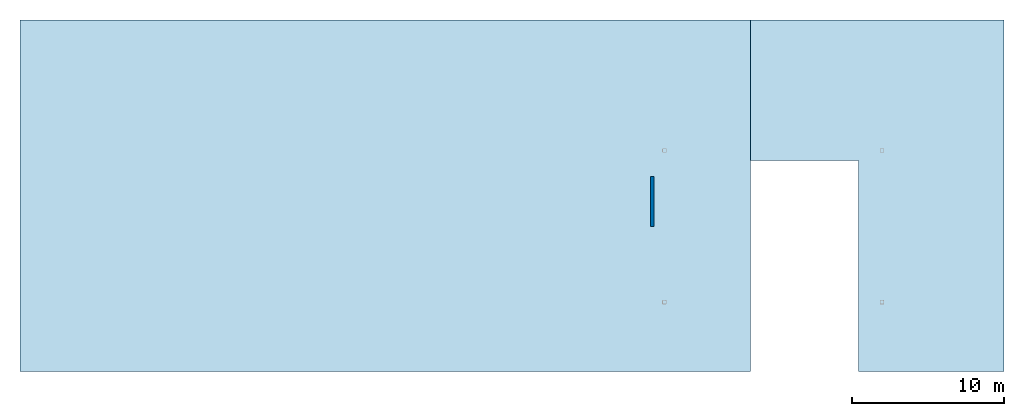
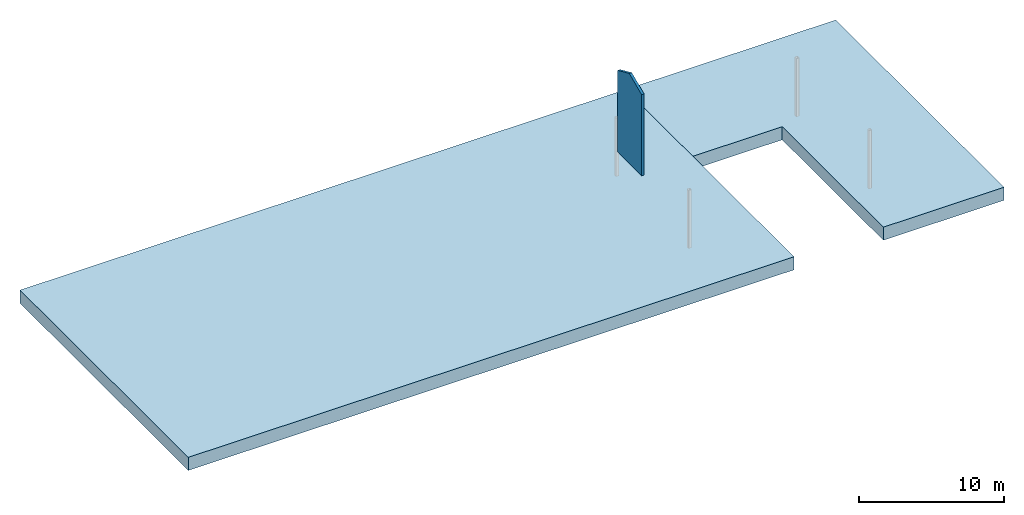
# One storey, part 2 of 2: 2 slabs, 1 wall.
"""IFC2X3 building model written with IfcOpenShell, lengths in millimetres."""

from ifc_helpers import new_model, entity, si_unit, converted_unit, derived_unit, direction, frame, frame_2d, origin, place, context, subcontext, project, spatial, polyline, rectangle, outline, extrude, clip, bounded_halfspace, material, layer, layer_set, layer_usage, type_object, element, save


model = new_model("IFC2X3")

# Units and contexts
model_context = context("Model", 3, precision=0.01, world=origin(), true_north=direction((6.123031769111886e-17, 1.0)))
body_context = subcontext(model_context, "Body", "Model", "MODEL_VIEW")
ifc_project = project(units=[si_unit("LENGTHUNIT", "METRE", prefix="MILLI"), si_unit("AREAUNIT", "SQUARE_METRE"), si_unit("VOLUMEUNIT", "CUBIC_METRE"), converted_unit("PLANEANGLEUNIT", "DEGREE", entity("IfcRatioMeasure", 0.017453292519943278), si_unit("PLANEANGLEUNIT", "RADIAN"), dimensions=[0, 0, 0, 0, 0, 0, 0]), si_unit("MASSUNIT", "GRAM", prefix="KILO"), derived_unit("MASSDENSITYUNIT", [(si_unit("MASSUNIT", "GRAM", prefix="KILO"), 1), (si_unit("LENGTHUNIT", "METRE"), -3)]), derived_unit("MOMENTOFINERTIAUNIT", [(si_unit("LENGTHUNIT", "METRE"), 4)]), si_unit("TIMEUNIT", "SECOND"), si_unit("FREQUENCYUNIT", "HERTZ"), si_unit("THERMODYNAMICTEMPERATUREUNIT", "DEGREE_CELSIUS"), derived_unit("THERMALTRANSMITTANCEUNIT", [(si_unit("MASSUNIT", "GRAM", prefix="KILO"), 1), (si_unit("THERMODYNAMICTEMPERATUREUNIT", "KELVIN"), -1), (si_unit("TIMEUNIT", "SECOND"), -3)]), derived_unit("VOLUMETRICFLOWRATEUNIT", [(si_unit("LENGTHUNIT", "METRE"), 3), (si_unit("TIMEUNIT", "SECOND"), -1)]), derived_unit("MASSFLOWRATEUNIT", [(si_unit("MASSUNIT", "GRAM", prefix="KILO"), 1), (si_unit("TIMEUNIT", "SECOND"), -1)]), derived_unit("ROTATIONALFREQUENCYUNIT", [(si_unit("TIMEUNIT", "SECOND"), -1)]), si_unit("ELECTRICCURRENTUNIT", "AMPERE"), si_unit("ELECTRICVOLTAGEUNIT", "VOLT"), si_unit("POWERUNIT", "WATT"), si_unit("FORCEUNIT", "NEWTON", prefix="KILO"), si_unit("ILLUMINANCEUNIT", "LUX"), si_unit("LUMINOUSFLUXUNIT", "LUMEN"), si_unit("LUMINOUSINTENSITYUNIT", "CANDELA"), derived_unit("USERDEFINED", [(si_unit("MASSUNIT", "GRAM", prefix="KILO"), -1), (si_unit("LENGTHUNIT", "METRE"), -2), (si_unit("TIMEUNIT", "SECOND"), 3), (si_unit("LUMINOUSFLUXUNIT", "LUMEN"), 1)]), derived_unit("SOUNDPOWERUNIT", [(si_unit("MASSUNIT", "GRAM", prefix="KILO"), 1), (si_unit("LENGTHUNIT", "METRE"), 2), (si_unit("TIMEUNIT", "SECOND"), -3)]), derived_unit("SOUNDPRESSUREUNIT", [(si_unit("MASSUNIT", "GRAM", prefix="KILO"), 1), (si_unit("LENGTHUNIT", "METRE"), -1), (si_unit("TIMEUNIT", "SECOND"), -2)]), derived_unit("LINEARVELOCITYUNIT", [(si_unit("LENGTHUNIT", "METRE"), 1), (si_unit("TIMEUNIT", "SECOND"), -1)]), si_unit("PRESSUREUNIT", "PASCAL"), derived_unit("USERDEFINED", [(si_unit("LENGTHUNIT", "METRE"), -2), (si_unit("MASSUNIT", "GRAM", prefix="KILO"), 1), (si_unit("TIMEUNIT", "SECOND"), -2)]), derived_unit("LINEARFORCEUNIT", [(si_unit("MASSUNIT", "GRAM", prefix="KILO"), 1), (si_unit("LENGTHUNIT", "METRE"), 1), (si_unit("TIMEUNIT", "SECOND"), -2), (si_unit("LENGTHUNIT", "METRE"), -1)]), derived_unit("PLANARFORCEUNIT", [(si_unit("MASSUNIT", "GRAM", prefix="KILO"), 1), (si_unit("LENGTHUNIT", "METRE"), 1), (si_unit("TIMEUNIT", "SECOND"), -2), (si_unit("LENGTHUNIT", "METRE"), -2)])], contexts=[model_context])

# Site, building, storey
site_placement = place(None, origin())
site = spatial("IfcSite", under=ifc_project, at=site_placement, Name="Default", CompositionType="ELEMENT")
building_placement = place(site_placement, origin())
building = spatial("IfcBuilding", under=site, at=building_placement, CompositionType="ELEMENT")
storey_placement = place(building_placement, frame((0.0, 0.0, 1100.0)))
storey = spatial("IfcBuildingStorey", under=building, at=storey_placement, Name="1FL", CompositionType="ELEMENT", Elevation=1100.0)

# Slabs
ifc_material_1 = material(Name="<Unnamed>")
ifc_layer_1 = layer(ifc_material_1, 1100.0)
ifc_layer_set_1 = layer_set([ifc_layer_1], Name="べた基礎:基礎スラブ")
ifc_layer_usage_1 = layer_usage(ifc_layer_set_1, "AXIS3", "POSITIVE", 0.0)
slab_type_1 = type_object("IfcSlabType", Name="べた基礎:基礎スラブ", PredefinedType="BASESLAB", material=ifc_layer_set_1)
slab_1_placement = place(storey_placement, origin())
element("IfcSlab", 1, at=slab_1_placement, inside=storey, type_object=slab_type_1, material=ifc_layer_usage_1, Name="べた基礎:基礎スラブ", ObjectType="べた基礎:基礎スラブ", PredefinedType="BASESLAB", context=body_context, shape_type="SweptSolid", body=[
    extrude(rectangle(XDim=23200.00000000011, YDim=48193.000000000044, at=frame_2d((9.094947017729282e-12, 0.0), x_axis=(1.0, 0.0))), frame((112294.50000000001, 9512.0, 0.0), z_axis=(0.0, 0.0, -1.0), x_axis=(0.0, 1.0, 0.0)), (0.0, 0.0, 1.0), 1100.0),
])
ifc_layer_usage_2 = layer_usage(ifc_layer_set_1, "AXIS3", "POSITIVE", 0.0)
slab_type_2 = type_object("IfcSlabType", Name="べた基礎:基礎スラブ", PredefinedType="BASESLAB", material=ifc_layer_set_1)
slab_2_placement = place(storey_placement, origin())
element("IfcSlab", 2, at=slab_2_placement, inside=storey, type_object=slab_type_2, material=ifc_layer_usage_2, Name="べた基礎:基礎スラブ", ObjectType="べた基礎:基礎スラブ", PredefinedType="BASESLAB", context=body_context, shape_type="SweptSolid", body=[
    extrude(outline(polyline([(1558.6666666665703, -7939.333333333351), (10820.666666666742, -7939.333333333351), (10820.666666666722, 8769.666666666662), (-12379.333333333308, 8769.666666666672), (-12379.333333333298, -830.3333333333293), (1558.6666666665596, -830.3333333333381), (1558.6666666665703, -7939.333333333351)])), frame((144330.3333333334, 10291.333333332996, 0.0), z_axis=(0.0, 0.0, -1.0), x_axis=(0.0, 1.0, 0.0)), (0.0, 0.0, 1.0), 1100.0),
])

# Wall
ifc_material_2 = material(Name="既定の壁")
ifc_layer_2 = layer(ifc_material_2, 200.0)
ifc_layer_set_2 = layer_set([ifc_layer_2], Name="標準壁:標準-200mm")
ifc_layer_usage_3 = layer_usage(ifc_layer_set_2, "AXIS2", "NEGATIVE", 100.0)
wall_type = type_object("IfcWallType", Name="標準壁:標準-200mm", PredefinedType="STANDARD", material=ifc_layer_set_2)
wall_placement = place(storey_placement, frame((129900.0, 10800.0, 3300.0), z_axis=(0.0, 0.0, 1.0), x_axis=(0.0, -1.0, 0.0)))
element("IfcWallStandardCase", 3, at=wall_placement, inside=storey, type_object=wall_type, material=ifc_layer_usage_3, Name="標準壁:標準-200mm", ObjectType="標準壁:標準-200mm", context=body_context, shape_type="Clipping", body=[
    clip(clip(extrude(rectangle(XDim=3300.0000000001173, YDim=199.99999999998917, at=frame_2d((1650.0000000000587, 0.0), x_axis=(-1.0, 0.0))), origin(), (0.0, 0.0, 1.0), 7585.804558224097), bounded_halfspace(frame((0.0, -100.0, 6873.438661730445), z_axis=(0.4067366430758, 0.0, -0.913545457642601), x_axis=(0.0, 1.0, 0.0)), True, frame((0.0, -100.0, 6873.438661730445)), polyline([(0.0, 0.0), (487680.0, 0.0), (487680.0, 60960.0), (0.0, 60960.0), (0.0, 0.0)]))), bounded_halfspace(frame((1600.0, -100.0, 7585.804558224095), z_axis=(-0.4067366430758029, 0.0, -0.9135454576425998), x_axis=(0.0, 1.0, 0.0)), True, frame((1600.0, -100.0, 7585.804558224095)), polyline([(0.0, 0.0), (518160.0, 0.0), (518160.0, 60960.0), (0.0, 60960.0), (0.0, 0.0)]))),
])

save(model, "model.ifc")
